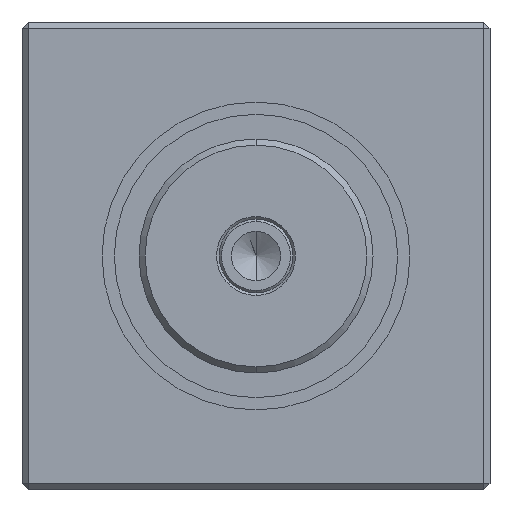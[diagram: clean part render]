
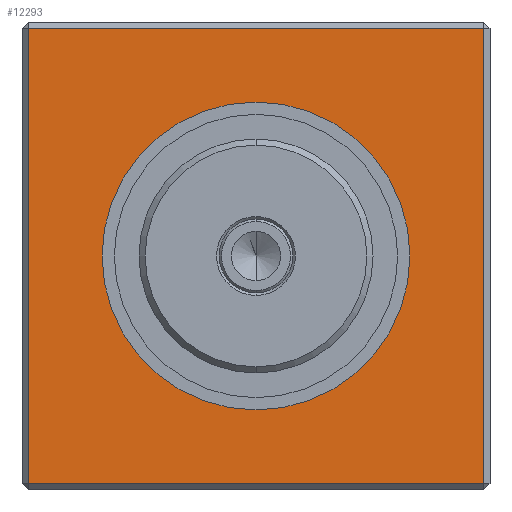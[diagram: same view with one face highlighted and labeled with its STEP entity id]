
A CAD part, left-side view. The second image highlights one B-rep face of the part: STEP entity #12293.
In plain terms, the highlighted planar face has unit normal (-1, 0, 0).
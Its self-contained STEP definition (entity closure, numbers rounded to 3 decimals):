
#11041 = VERTEX_POINT ( 'NONE', #29679 ) ;
#11042 = VERTEX_POINT ( 'NONE', #29680 ) ;
#11043 = VERTEX_POINT ( 'NONE', #29681 ) ;
#11044 = VERTEX_POINT ( 'NONE', #29682 ) ;
#11112 = EDGE_LOOP ( 'NONE', ( #12673, #12675 ) ) ;
#11113 = EDGE_LOOP ( 'NONE', ( #12668, #12670, #12669, #12671 ) ) ;
#11357 = VERTEX_POINT ( 'NONE', #29744 ) ;
#11358 = VERTEX_POINT ( 'NONE', #29745 ) ;
#11773 = EDGE_CURVE ( 'NONE', #11357, #11358, #16375, .T. ) ;
#12214 = EDGE_CURVE ( 'NONE', #11042, #11043, #33076, .T. ) ;
#12215 = EDGE_CURVE ( 'NONE', #11041, #11042, #33079, .T. ) ;
#12216 = EDGE_CURVE ( 'NONE', #11043, #11044, #33082, .T. ) ;
#12217 = EDGE_CURVE ( 'NONE', #11044, #11041, #33085, .T. ) ;
#12218 = EDGE_CURVE ( 'NONE', #11358, #11357, #16426, .T. ) ;
#12293 = ADVANCED_FACE ( 'NONE', ( #32140, #32145 ), #33326, .F. ) ;
#12668 = ORIENTED_EDGE ( 'NONE', *, *, #12215, .T. ) ;
#12669 = ORIENTED_EDGE ( 'NONE', *, *, #12216, .T. ) ;
#12670 = ORIENTED_EDGE ( 'NONE', *, *, #12214, .T. ) ;
#12671 = ORIENTED_EDGE ( 'NONE', *, *, #12217, .T. ) ;
#12673 = ORIENTED_EDGE ( 'NONE', *, *, #12218, .F. ) ;
#12675 = ORIENTED_EDGE ( 'NONE', *, *, #11773, .F. ) ;
#16375 = CIRCLE ( 'NONE', #27679, 12.5 ) ;
#16426 = CIRCLE ( 'NONE', #31956, 12.5 ) ;
#27679 = AXIS2_PLACEMENT_3D ( 'NONE', #30074, #30075, #30076 ) ;
#29679 = CARTESIAN_POINT ( 'NONE',  ( 0., 18.5, -18.5 ) ) ;
#29680 = CARTESIAN_POINT ( 'NONE',  ( 0., -18.5, -18.5 ) ) ;
#29681 = CARTESIAN_POINT ( 'NONE',  ( 0., -18.5, 18.5 ) ) ;
#29682 = CARTESIAN_POINT ( 'NONE',  ( 0., 18.5, 18.5 ) ) ;
#29744 = CARTESIAN_POINT ( 'NONE',  ( 0., 12.5, 0. ) ) ;
#29745 = CARTESIAN_POINT ( 'NONE',  ( 0., -12.5, 0. ) ) ;
#30074 = CARTESIAN_POINT ( 'NONE',  ( 0., 0., 0. ) ) ;
#30075 = DIRECTION ( 'NONE',  ( -1., 0., 0. ) ) ;
#30076 = DIRECTION ( 'NONE',  ( 0., -1., 0. ) ) ;
#31956 = AXIS2_PLACEMENT_3D ( 'NONE', #33075, #33088, #33089 ) ;
#31957 = VECTOR ( 'NONE', #33078, 1000. ) ;
#31958 = VECTOR ( 'NONE', #33081, 1000. ) ;
#31959 = VECTOR ( 'NONE', #33084, 1000. ) ;
#31960 = VECTOR ( 'NONE', #33087, 1000. ) ;
#32140 = FACE_OUTER_BOUND ( 'NONE', #11113, .T. ) ;
#32145 = FACE_BOUND ( 'NONE', #11112, .T. ) ;
#32147 = AXIS2_PLACEMENT_3D ( 'NONE', #33327, #33328, #33329 ) ;
#33075 = CARTESIAN_POINT ( 'NONE',  ( 0., 0., 0. ) ) ;
#33076 = LINE ( 'NONE', #33077, #31957 ) ;
#33077 = CARTESIAN_POINT ( 'NONE',  ( 0., -18.5, 19. ) ) ;
#33078 = DIRECTION ( 'NONE',  ( 0., 0., 1. ) ) ;
#33079 = LINE ( 'NONE', #33080, #31958 ) ;
#33080 = CARTESIAN_POINT ( 'NONE',  ( 0., -19., -18.5 ) ) ;
#33081 = DIRECTION ( 'NONE',  ( 0., -1., 0. ) ) ;
#33082 = LINE ( 'NONE', #33083, #31959 ) ;
#33083 = CARTESIAN_POINT ( 'NONE',  ( 0., -19., 18.5 ) ) ;
#33084 = DIRECTION ( 'NONE',  ( 0., 1., 0. ) ) ;
#33085 = LINE ( 'NONE', #33086, #31960 ) ;
#33086 = CARTESIAN_POINT ( 'NONE',  ( 0., 18.5, 19. ) ) ;
#33087 = DIRECTION ( 'NONE',  ( 0., 0., -1. ) ) ;
#33088 = DIRECTION ( 'NONE',  ( -1., 0., 0. ) ) ;
#33089 = DIRECTION ( 'NONE',  ( 0., -1., 0. ) ) ;
#33326 = PLANE ( 'NONE',  #32147 ) ;
#33327 = CARTESIAN_POINT ( 'NONE',  ( 0., -19., 19. ) ) ;
#33328 = DIRECTION ( 'NONE',  ( 1., 0., 0. ) ) ;
#33329 = DIRECTION ( 'NONE',  ( 0., 0., -1. ) ) ;
